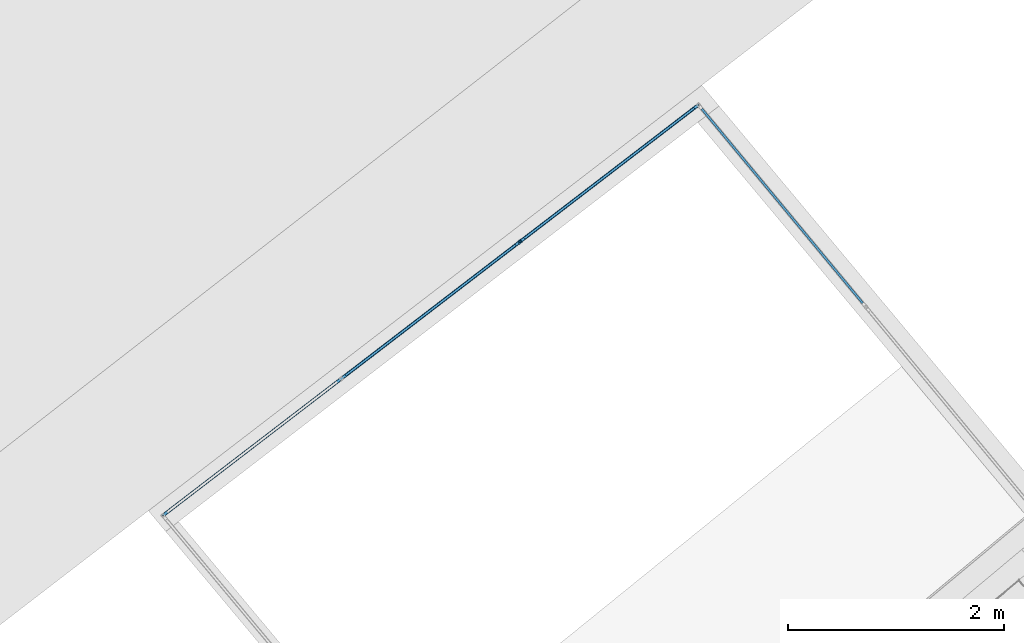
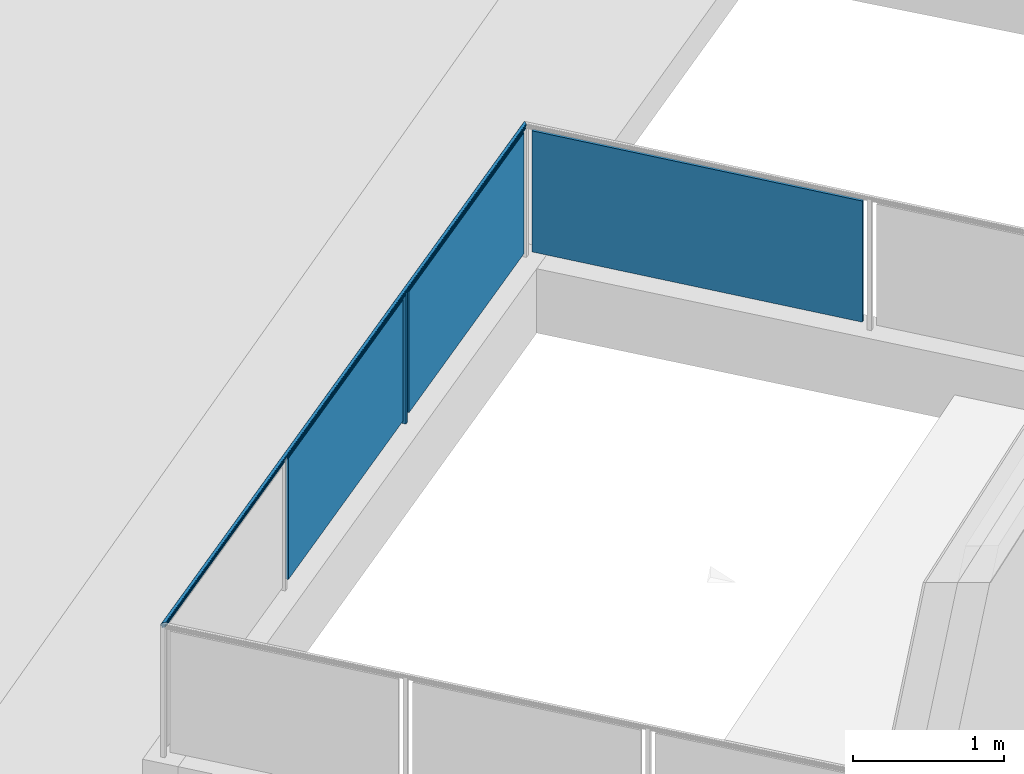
# One storey, part 55 of 75: 5 building element parts, 1 element without a shape of its own.
"""IFC4 building model written with IfcOpenShell, lengths in metres."""

from ifc_helpers import new_model, entity, si_unit, converted_unit, derived_unit, direction, frame, origin_with_axes, place, context, subcontext, project, spatial, polygons, material, type_object, element, aggregate, save


model = new_model("IFC4")

# Units and contexts
model_context = context("Model", 3, precision=1e-05, world=origin_with_axes(), true_north=direction((0.0, 1.0)))
body_context = subcontext(model_context, "Body", "Model", "MODEL_VIEW")
ifc_project = project(units=[si_unit("LENGTHUNIT", "METRE"), si_unit("AREAUNIT", "SQUARE_METRE"), si_unit("VOLUMEUNIT", "CUBIC_METRE"), converted_unit("PLANEANGLEUNIT", "DEGREE", entity("IfcPlaneAngleMeasure", 0.0174532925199), si_unit("PLANEANGLEUNIT", "RADIAN"), dimensions=[0, 0, 0, 0, 0, 0, 0]), converted_unit("TIMEUNIT", "Year", entity("IfcTimeMeasure", 31556926.0), si_unit("TIMEUNIT", "SECOND"), dimensions=[0, 0, 1, 0, 0, 0, 0]), si_unit("MASSUNIT", "GRAM", prefix="KILO"), si_unit("THERMODYNAMICTEMPERATUREUNIT", "DEGREE_CELSIUS"), si_unit("LUMINOUSINTENSITYUNIT", "LUMEN"), si_unit("ENERGYUNIT", "JOULE", prefix="MEGA"), derived_unit("THERMALCONDUCTANCEUNIT", [(si_unit("POWERUNIT", "WATT"), 1), (si_unit("LENGTHUNIT", "METRE"), -1), (si_unit("THERMODYNAMICTEMPERATUREUNIT", "KELVIN"), -1)]), derived_unit("SPECIFICHEATCAPACITYUNIT", [(si_unit("ENERGYUNIT", "JOULE"), 1), (si_unit("MASSUNIT", "GRAM", prefix="KILO"), -1), (si_unit("THERMODYNAMICTEMPERATUREUNIT", "KELVIN"), -1)]), derived_unit("MASSDENSITYUNIT", [(si_unit("MASSUNIT", "GRAM", prefix="KILO"), 1), (si_unit("VOLUMEUNIT", "CUBIC_METRE"), -1)])], contexts=[model_context])

# Site, building, storey
site_placement = place(None, frame((-0.00153261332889, -0.00661245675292, 0.0), z_axis=(0.0, 0.0, 1.0), x_axis=(1.0, 0.0, 0.0)))
site = spatial("IfcSite", under=ifc_project, at=site_placement, Name="Gelände", CompositionType="ELEMENT")
building_placement = place(site_placement, origin_with_axes())
building = spatial("IfcBuilding", under=site, at=building_placement, Name="Gebäude", CompositionType="ELEMENT")
storey_placement = place(building_placement, frame((0.0, 0.0, -0.22), z_axis=(0.0, 0.0, 1.0), x_axis=(1.0, 0.0, 0.0)))
storey = spatial("IfcBuildingStorey", under=building, at=storey_placement, Name="EG", CompositionType="ELEMENT", Elevation=-0.22)

# Railing, building element parts
railing_type = type_object("IfcRailingType", Name="Geländerart", PredefinedType="NOTDEFINED")
railing_placement = place(storey_placement, frame((0.180685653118, 26.4249004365, 0.523948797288), z_axis=(0.0, 0.0, 1.0), x_axis=(1.0, 0.0, 0.0)))
railing = element("IfcRailing", 1, at=railing_placement, inside=storey, type_object=railing_type, Name="Geländer - 001", PredefinedType="NOTDEFINED")
ifc_material_1 = material(Name="Aluminium")
building_element_part_1_placement = place(railing_placement, origin_with_axes())
building_element_part_1 = element("IfcBuildingElementPart", 2, at=building_element_part_1_placement, material=ifc_material_1, Name="Aluminium", PredefinedType="NOTDEFINED", context=body_context, shape_type="Tessellation", body=[
    polygons([(-3.21977118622, 3.98723001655, 1.07636363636), (-3.21943358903, 3.98719260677, 1.07634109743), (1.73126837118, 7.78326252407, 1.07634109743), (1.73130497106, 7.78358685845, 1.07636363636), (-3.21977118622, 3.98723001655, 1.07818181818), (-3.21985991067, 3.98723984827, 1.07820551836), (-3.22459453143, 3.98776450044, 1.0792391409), (-3.22939766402, 3.98829674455, 1.07983921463), (-3.23423275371, 3.98883252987, 1.08000117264), (-3.23432434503, 3.98884267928, 1.08), (-3.23441593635, 3.98885282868, 1.08000117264), (-3.23925102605, 3.98938861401, 1.07983921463), (-3.24405415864, 3.98992085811, 1.0792391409), (-3.24878877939, 3.99044551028, 1.07820551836), (-3.24887750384, 3.99045534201, 1.07818181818), (-3.24887750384, 3.99045534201, 1.07636363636), (-3.24921510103, 3.99049275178, 1.07634109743), (-3.25046526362, 3.99063128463, 1.0761115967), (-3.25165815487, 3.99076347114, 1.07565956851), (-3.2527575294, 3.99088529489, 1.07499874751), (-3.25372998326, 3.99099305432, 1.0741492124), (-3.25454596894, 3.99108347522, 1.07313677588), (-3.25518069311, 3.99115381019, 1.07199220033), (-3.25561487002, 3.99120192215, 1.07075026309), (-3.25583530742, 3.99122634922, 1.06944869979), (-3.25583530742, 3.99122634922, 1.06812705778), (-3.25561487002, 3.99120192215, 1.06682549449), (-3.25518069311, 3.99115381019, 1.06558355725), (-3.25454596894, 3.99108347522, 1.06443898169), (-3.25372998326, 3.99099305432, 1.06342654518), (-3.2527575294, 3.99088529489, 1.06257701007), (-3.25165815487, 3.99076347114, 1.06191618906), (-3.25046526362, 3.99063128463, 1.06146416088), (-3.24921510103, 3.99049275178, 1.06123466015), (-3.24887750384, 3.99045534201, 1.06121212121), (-3.24887750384, 3.99045534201, 1.05818181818), (-3.2486492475, 3.99043004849, 1.05810011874), (-3.247585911, 3.99031221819, 1.05758389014), (-3.24662483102, 3.99020571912, 1.05688326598), (-3.2457952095, 3.99011378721, 1.05601953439), (-3.24512225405, 3.99003921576, 1.05501893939), (-3.2446264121, 3.98998427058, 1.05391188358), (-3.24432274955, 3.98995062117, 1.05273200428), (-3.24422049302, 3.98993928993, 1.05151515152), (-3.24432274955, 3.98995062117, 1.05029829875), (-3.2446264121, 3.98998427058, 1.04911841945), (-3.24512225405, 3.99003921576, 1.04801136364), (-3.2457952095, 3.99011378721, 1.04701076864), (-3.24662483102, 3.99020571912, 1.04614703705), (-3.247585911, 3.99031221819, 1.04544641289), (-3.2486492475, 3.99043004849, 1.04493018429), (-3.24887750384, 3.99045534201, 1.04484848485), (-3.24887750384, 3.99045534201, 1.04), (-3.21977118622, 3.98723001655, 1.04), (-3.21977118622, 3.98723001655, 1.04484848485), (-3.21999944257, 3.98725531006, 1.04493018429), (-3.22106277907, 3.98737314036, 1.04544641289), (-3.22202385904, 3.98747963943, 1.04614703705), (-3.22285348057, 3.98757157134, 1.04701076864), (-3.22352643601, 3.9876461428, 1.04801136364), (-3.22402227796, 3.98770108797, 1.04911841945), (-3.22432594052, 3.98773473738, 1.05029829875), (-3.22442819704, 3.98774606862, 1.05151515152), (-3.22432594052, 3.98773473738, 1.05273200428), (-3.22402227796, 3.98770108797, 1.05391188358), (-3.22352643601, 3.9876461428, 1.05501893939), (-3.22285348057, 3.98757157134, 1.05601953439), (-3.22202385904, 3.98747963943, 1.05688326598), (-3.22106277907, 3.98737314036, 1.05758389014), (-3.21999944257, 3.98725531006, 1.05810011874), (-3.21977118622, 3.98723001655, 1.05818181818), (-3.21977118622, 3.98723001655, 1.06121212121), (-3.21943358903, 3.98719260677, 1.06123466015), (-3.21818342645, 3.98705407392, 1.06146416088), (-3.21699053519, 3.98692188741, 1.06191618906), (-3.21589116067, 3.98680006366, 1.06257701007), (-3.21491870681, 3.98669230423, 1.06342654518), (-3.21410272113, 3.98660188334, 1.06443898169), (-3.21346799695, 3.98653154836, 1.06558355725), (-3.21303382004, 3.98648343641, 1.06682549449), (-3.21281338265, 3.98645900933, 1.06812705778), (-3.21281338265, 3.98645900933, 1.06944869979), (-3.21303382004, 3.98648343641, 1.07075026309), (-3.21346799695, 3.98653154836, 1.07199220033), (-3.21410272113, 3.98660188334, 1.07313677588), (-3.21491870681, 3.98669230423, 1.0741492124), (-3.21589116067, 3.98680006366, 1.07499874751), (-3.21699053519, 3.98692188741, 1.07565956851), (-3.21818342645, 3.98705407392, 1.0761115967), (1.73113283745, 7.7820614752, 1.0761115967), (1.73100351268, 7.78091544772, 1.07565956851), (1.73088432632, 7.77985926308, 1.07499874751), (1.73077889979, 7.77892501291, 1.0741492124), (1.73069043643, 7.77814108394, 1.07313677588), (1.73062162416, 7.77753129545, 1.07199220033), (1.73057455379, 7.77711417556, 1.07075026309), (1.73055065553, 7.77690239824, 1.06944869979), (1.73055065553, 7.77690239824, 1.06812705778), (1.73057455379, 7.77711417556, 1.06682549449), (1.73062162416, 7.77753129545, 1.06558355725), (1.73069043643, 7.77814108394, 1.06443898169), (1.73077889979, 7.77892501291, 1.06342654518), (1.73088432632, 7.77985926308, 1.06257701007), (1.73100351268, 7.78091544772, 1.06191618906), (1.73113283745, 7.7820614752, 1.06146416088), (1.73126837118, 7.78326252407, 1.06123466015), (1.73130497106, 7.78358685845, 1.06121212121), (1.73130497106, 7.78358685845, 1.05818181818), (1.73132971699, 7.78380614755, 1.05810011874), (1.73144499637, 7.78482770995, 1.05758389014), (1.73154918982, 7.78575103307, 1.05688326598), (1.73163913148, 7.78654806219, 1.05601953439), (1.73171208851, 7.78719457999, 1.05501893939), (1.73176584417, 7.78767094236, 1.05391188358), (1.7317987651, 7.78796267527, 1.05273200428), (1.73180985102, 7.78806091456, 1.05151515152), (1.7317987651, 7.78796267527, 1.05029829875), (1.73176584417, 7.78767094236, 1.04911841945), (1.73171208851, 7.78719457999, 1.04801136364), (1.73163913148, 7.78654806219, 1.04701076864), (1.73154918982, 7.78575103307, 1.04614703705), (1.73144499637, 7.78482770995, 1.04544641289), (1.73132971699, 7.78380614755, 1.04493018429), (1.73130497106, 7.78358685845, 1.04484848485), (1.73130497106, 7.78358685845, 1.04), (1.73446047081, 7.81154970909, 1.04), (1.73446047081, 7.81154970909, 1.04484848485), (1.73443572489, 7.81133042, 1.04493018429), (1.73432044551, 7.8103088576, 1.04544641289), (1.73421625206, 7.80938553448, 1.04614703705), (1.7341263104, 7.80858850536, 1.04701076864), (1.73405335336, 7.80794198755, 1.04801136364), (1.73399959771, 7.80746562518, 1.04911841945), (1.73396667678, 7.80717389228, 1.05029829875), (1.73395559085, 7.80707565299, 1.05151515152), (1.73396667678, 7.80717389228, 1.05273200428), (1.73399959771, 7.80746562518, 1.05391188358), (1.73405335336, 7.80794198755, 1.05501893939), (1.7341263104, 7.80858850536, 1.05601953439), (1.73421625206, 7.80938553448, 1.05688326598), (1.73432044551, 7.8103088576, 1.05758389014), (1.73443572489, 7.81133042, 1.05810011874), (1.73446047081, 7.81154970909, 1.05818181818), (1.73446047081, 7.81154970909, 1.06121212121), (1.7344970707, 7.81187404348, 1.06123466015), (1.73463260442, 7.81307509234, 1.06146416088), (1.7347619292, 7.81422111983, 1.06191618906), (1.73488111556, 7.81527730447, 1.06257701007), (1.73498654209, 7.81621155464, 1.06342654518), (1.73507500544, 7.81699548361, 1.06443898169), (1.73514381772, 7.81760527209, 1.06558355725), (1.73519088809, 7.81802239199, 1.06682549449), (1.73521478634, 7.81823416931, 1.06812705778), (1.73521478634, 7.81823416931, 1.06944869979), (1.73519088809, 7.81802239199, 1.07075026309), (1.73514381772, 7.81760527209, 1.07199220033), (1.73507500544, 7.81699548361, 1.07313677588), (1.73498654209, 7.81621155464, 1.0741492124), (1.73488111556, 7.81527730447, 1.07499874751), (1.7347619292, 7.81422111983, 1.07565956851), (1.73463260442, 7.81307509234, 1.0761115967), (1.7344970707, 7.81187404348, 1.07634109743), (1.73446047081, 7.81154970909, 1.07636363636), (1.73446047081, 7.81154970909, 1.07818181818), (1.73445085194, 7.81146447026, 1.07820551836), (1.73393755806, 7.8069158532, 1.0792391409), (1.73341683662, 7.80230141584, 1.07983921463), (1.73289265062, 7.79765627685, 1.08000117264), (1.73288272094, 7.79756828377, 1.08), (1.73287279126, 7.7974802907, 1.08000117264), (1.73234860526, 7.79283515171, 1.07983921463), (1.73182788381, 7.78822071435, 1.0792391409), (1.73131458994, 7.78367209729, 1.07820551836), (1.73130497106, 7.78358685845, 1.07818181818)], [[[1, 2, 3, 4]], [[1, 5, 6, 7, 8, 9, 10, 11, 12, 13, 14, 15, 16, 17, 18, 19, 20, 21, 22, 23, 24, 25, 26, 27, 28, 29, 30, 31, 32, 33, 34, 35, 36, 37, 38, 39, 40, 41, 42, 43, 44, 45, 46, 47, 48, 49, 50, 51, 52, 53, 54, 55, 56, 57, 58, 59, 60, 61, 62, 63, 64, 65, 66, 67, 68, 69, 70, 71, 72, 73, 74, 75, 76, 77, 78, 79, 80, 81, 82, 83, 84, 85, 86, 87, 88, 89, 2]], [[2, 89, 90, 3]], [[4, 3, 90, 91, 92, 93, 94, 95, 96, 97, 98, 99, 100, 101, 102, 103, 104, 105, 106, 107, 108, 109, 110, 111, 112, 113, 114, 115, 116, 117, 118, 119, 120, 121, 122, 123, 124, 125, 126, 127, 128, 129, 130, 131, 132, 133, 134, 135, 136, 137, 138, 139, 140, 141, 142, 143, 144, 145, 146, 147, 148, 149, 150, 151, 152, 153, 154, 155, 156, 157, 158, 159, 160, 161, 162, 163, 164, 165, 166, 167, 168, 169, 170, 171, 172, 173, 174]], [[5, 1, 4, 174]], [[6, 5, 174, 173]], [[7, 6, 173, 172]], [[8, 7, 172, 171]], [[9, 8, 171, 170]], [[10, 9, 170, 169]], [[11, 10, 169, 168]], [[12, 11, 168, 167]], [[13, 12, 167, 166]], [[14, 13, 166, 165]], [[15, 14, 165, 164]], [[16, 15, 164, 163]], [[17, 16, 163, 162]], [[18, 17, 162, 161]], [[19, 18, 161, 160]], [[20, 19, 160, 159]], [[21, 20, 159, 158]], [[22, 21, 158, 157]], [[23, 22, 157, 156]], [[24, 23, 156, 155]], [[25, 24, 155, 154]], [[26, 25, 154, 153]], [[27, 26, 153, 152]], [[28, 27, 152, 151]], [[29, 28, 151, 150]], [[30, 29, 150, 149]], [[31, 30, 149, 148]], [[32, 31, 148, 147]], [[33, 32, 147, 146]], [[34, 33, 146, 145]], [[35, 34, 145, 144]], [[36, 35, 144, 143]], [[37, 36, 143, 142]], [[38, 37, 142, 141]], [[39, 38, 141, 140]], [[40, 39, 140, 139]], [[41, 40, 139, 138]], [[42, 41, 138, 137]], [[43, 42, 137, 136]], [[44, 43, 136, 135]], [[45, 44, 135, 134]], [[46, 45, 134, 133]], [[47, 46, 133, 132]], [[48, 47, 132, 131]], [[49, 48, 131, 130]], [[50, 49, 130, 129]], [[51, 50, 129, 128]], [[52, 51, 128, 127]], [[53, 52, 127, 126]], [[54, 53, 126, 125]], [[55, 54, 125, 124]], [[56, 55, 124, 123]], [[57, 56, 123, 122]], [[58, 57, 122, 121]], [[59, 58, 121, 120]], [[60, 59, 120, 119]], [[61, 60, 119, 118]], [[62, 61, 118, 117]], [[63, 62, 117, 116]], [[64, 63, 116, 115]], [[65, 64, 115, 114]], [[66, 65, 114, 113]], [[67, 66, 113, 112]], [[68, 67, 112, 111]], [[69, 68, 111, 110]], [[70, 69, 110, 109]], [[71, 70, 109, 108]], [[72, 71, 108, 107]], [[73, 72, 107, 106]], [[74, 73, 106, 105]], [[75, 74, 105, 104]], [[76, 75, 104, 103]], [[77, 76, 103, 102]], [[78, 77, 102, 101]], [[79, 78, 101, 100]], [[80, 79, 100, 99]], [[81, 80, 99, 98]], [[82, 81, 98, 97]], [[83, 82, 97, 96]], [[84, 83, 96, 95]], [[85, 84, 95, 94]], [[86, 85, 94, 93]], [[87, 86, 93, 92]], [[88, 87, 92, 91]], [[89, 88, 91, 90]]], closed=True),
])
ifc_material_2 = material(Name="Zaun")
building_element_part_2_placement = place(railing_placement, origin_with_axes())
building_element_part_2 = element("IfcBuildingElementPart", 3, at=building_element_part_2_placement, material=ifc_material_2, Name="Zaun", PredefinedType="NOTDEFINED", context=body_context, shape_type="Tessellation", body=[
    polygons([(0.0313839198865, 6.50550447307, 0.05), (-1.54499524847, 5.29677779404, 0.05), (-1.54499524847, 5.29677779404, 1.03), (0.0313839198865, 6.50550447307, 1.03), (-1.53282554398, 5.28090648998, 0.05), (0.0435536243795, 6.48963316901, 0.05), (-1.53282554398, 5.28090648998, 1.03), (0.0435536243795, 6.48963316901, 1.03)], [[[1, 2, 3, 4]], [[5, 2, 1, 6]], [[7, 3, 2, 5]], [[4, 3, 7, 8]], [[1, 4, 8, 6]], [[7, 5, 6, 8]]], closed=True),
])
building_element_part_3_placement = place(railing_placement, origin_with_axes())
building_element_part_3 = element("IfcBuildingElementPart", 4, at=building_element_part_3_placement, material=ifc_material_1, Name="Aluminium", PredefinedType="NOTDEFINED", context=body_context, shape_type="Tessellation", body=[
    polygons([(0.0981777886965, 6.5252168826, 0.0), (0.0799232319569, 6.54902383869, 0.0), (0.0799232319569, 6.54902383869, 1.06), (0.0981777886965, 6.5252168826, 1.06), (0.0743708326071, 6.50696232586, 0.0), (0.0561162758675, 6.53076928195, 0.0), (0.0911675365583, 6.52614228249, 0.0), (0.0789978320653, 6.54201358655, 0.0), (0.0631265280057, 6.52984388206, 0.0), (0.0752962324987, 6.513972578, 0.0), (0.0561162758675, 6.53076928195, 1.06), (0.0743708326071, 6.50696232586, 1.06), (0.0911675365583, 6.52614228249, 1.06), (0.0752962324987, 6.513972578, 1.06), (0.0631265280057, 6.52984388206, 1.06), (0.0789978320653, 6.54201358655, 1.06)], [[[1, 2, 3, 4]], [[1, 5, 6, 2], [7, 8, 9, 10]], [[2, 6, 11, 3]], [[4, 3, 11, 12], [13, 14, 15, 16]], [[5, 1, 4, 12]], [[6, 5, 12, 11]], [[8, 7, 13, 16]], [[9, 8, 16, 15]], [[10, 9, 15, 14]], [[7, 10, 14, 13]]], closed=True),
])
building_element_part_4_placement = place(railing_placement, origin_with_axes())
building_element_part_4 = element("IfcBuildingElementPart", 5, at=building_element_part_4_placement, material=ifc_material_2, Name="Zaun", PredefinedType="NOTDEFINED", context=body_context, shape_type="Tessellation", body=[
    polygons([(1.68711960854, 7.77507967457, 0.05), (0.110740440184, 6.56635299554, 0.05), (0.110740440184, 6.56635299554, 1.03), (1.68711960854, 7.77507967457, 1.03), (0.122910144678, 6.55048169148, 0.05), (1.69928931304, 7.75920837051, 0.05), (0.122910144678, 6.55048169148, 1.03), (1.69928931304, 7.75920837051, 1.03)], [[[1, 2, 3, 4]], [[5, 2, 1, 6]], [[7, 3, 2, 5]], [[4, 3, 7, 8]], [[1, 4, 8, 6]], [[7, 5, 6, 8]]], closed=True),
])
building_element_part_5_placement = place(railing_placement, origin_with_axes())
building_element_part_5 = element("IfcBuildingElementPart", 6, at=building_element_part_5_placement, material=ifc_material_2, Name="Zaun", PredefinedType="NOTDEFINED", context=body_context, shape_type="Tessellation", body=[
    polygons([(3.26292601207, 5.96657446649, 0.05), (1.77248328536, 7.76544671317, 0.05), (1.77248328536, 7.76544671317, 1.03), (3.26292601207, 5.96657446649, 1.03), (1.75708263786, 7.75268661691, 0.05), (3.24752536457, 5.95381437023, 0.05), (1.75708263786, 7.75268661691, 1.03), (3.24752536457, 5.95381437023, 1.03)], [[[1, 2, 3, 4]], [[5, 2, 1, 6]], [[7, 3, 2, 5]], [[4, 3, 7, 8]], [[1, 4, 8, 6]], [[7, 5, 6, 8]]], closed=True),
])
aggregate(railing, [building_element_part_1, building_element_part_2, building_element_part_3, building_element_part_4, building_element_part_5])

save(model, "model.ifc")
